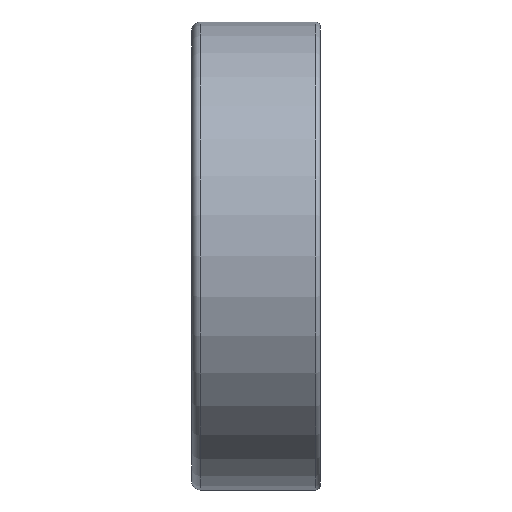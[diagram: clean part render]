
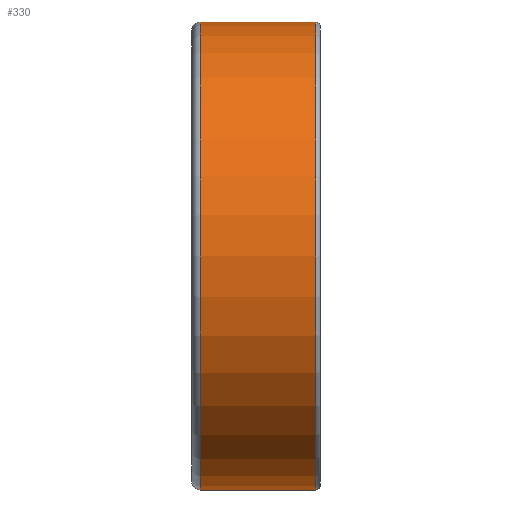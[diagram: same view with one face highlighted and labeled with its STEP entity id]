
A CAD part, front view. The second image highlights one B-rep face of the part: STEP entity #330.
In plain terms, the highlighted cylindrical face has radius 31 mm (diameter 62 mm), a full revolution.
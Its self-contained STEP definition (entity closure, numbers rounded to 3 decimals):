
#330 = ADVANCED_FACE( '', ( #384, #385 ), #386, .T. );
#384 = FACE_OUTER_BOUND( '', #443, .T. );
#385 = FACE_OUTER_BOUND( '', #444, .T. );
#386 = CYLINDRICAL_SURFACE( '', #445, 31. );
#443 = EDGE_LOOP( '', ( #533 ) );
#444 = EDGE_LOOP( '', ( #534 ) );
#445 = AXIS2_PLACEMENT_3D( '', #535, #536, #537 );
#533 = ORIENTED_EDGE( '', *, *, #566, .T. );
#534 = ORIENTED_EDGE( '', *, *, #565, .F. );
#535 = CARTESIAN_POINT( '', ( 17., 0., 0. ) );
#536 = DIRECTION( '', ( -1., 0., 0. ) );
#537 = DIRECTION( '', ( 0., 0., -1. ) );
#565 = EDGE_CURVE( '', #601, #601, #602, .T. );
#566 = EDGE_CURVE( '', #603, #603, #604, .T. );
#601 = VERTEX_POINT( '', #637 );
#602 = CIRCLE( '', #638, 31. );
#603 = VERTEX_POINT( '', #639 );
#604 = CIRCLE( '', #640, 31. );
#637 = CARTESIAN_POINT( '', ( 16.4, 0., -31. ) );
#638 = AXIS2_PLACEMENT_3D( '', #689, #690, #691 );
#639 = CARTESIAN_POINT( '', ( 1.1, 0., -31. ) );
#640 = AXIS2_PLACEMENT_3D( '', #692, #693, #694 );
#689 = CARTESIAN_POINT( '', ( 16.4, 0., 0. ) );
#690 = DIRECTION( '', ( 1., 0., 0. ) );
#691 = DIRECTION( '', ( 0., 0., -1. ) );
#692 = CARTESIAN_POINT( '', ( 1.1, 0., 0. ) );
#693 = DIRECTION( '', ( 1., 0., 0. ) );
#694 = DIRECTION( '', ( 0., 0., -1. ) );
